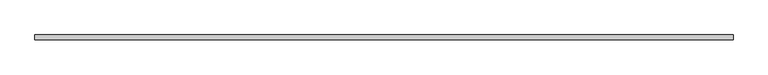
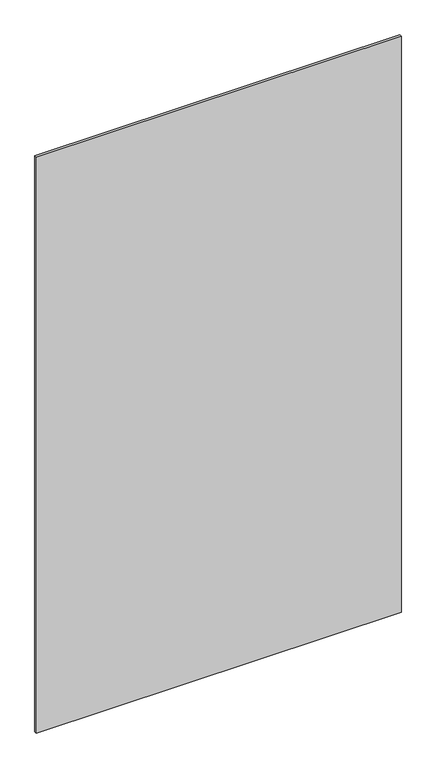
"""IFC4 building model written with IfcOpenShell, lengths in millimetres: plate geometry, 系統嵌板 : 玻璃 1.0cm."""

from ifc_helpers import new_model, si_unit, origin, origin_with_axes, place, context, project, spatial, polyline, outline, extrude, source, transform, mapped, element, save


def plate_969d1667(model_context):
    return source(origin(), model_context, "Body", "SweptSolid", [
        extrude(outline(polyline([(750.0, -5.0), (-750.0, -5.0), (-750.0, 5.0), (750.0, 5.0), (750.0, -5.0)])), origin_with_axes(), (0.0, 0.0, 1.0), 2500.0),
    ])


if __name__ == "__main__":
    model = new_model("IFC4")
    model_context = context("Model", 3, world=origin())
    ifc_project = project(units=[si_unit("LENGTHUNIT", "METRE", prefix="MILLI")], contexts=[model_context])
    site = spatial("IfcSite", under=ifc_project)
    building = spatial("IfcBuilding", under=site)
    placement = place(None, origin())
    plate_shape = plate_969d1667(model_context)
    element("IfcPlate", 1, ObjectType="系統嵌板 : 玻璃 1.0cm", at=placement, inside=building, context=model_context, shape_type="MappedRepresentation", body=[
        mapped(plate_shape, transform((0.0, 0.0, 0.0), x_axis=(1.0, 0.0, 0.0), y_axis=(0.0, 1.0, 0.0), z_axis=(0.0, 0.0, 1.0))),
    ])
    save(model, "model.ifc")
